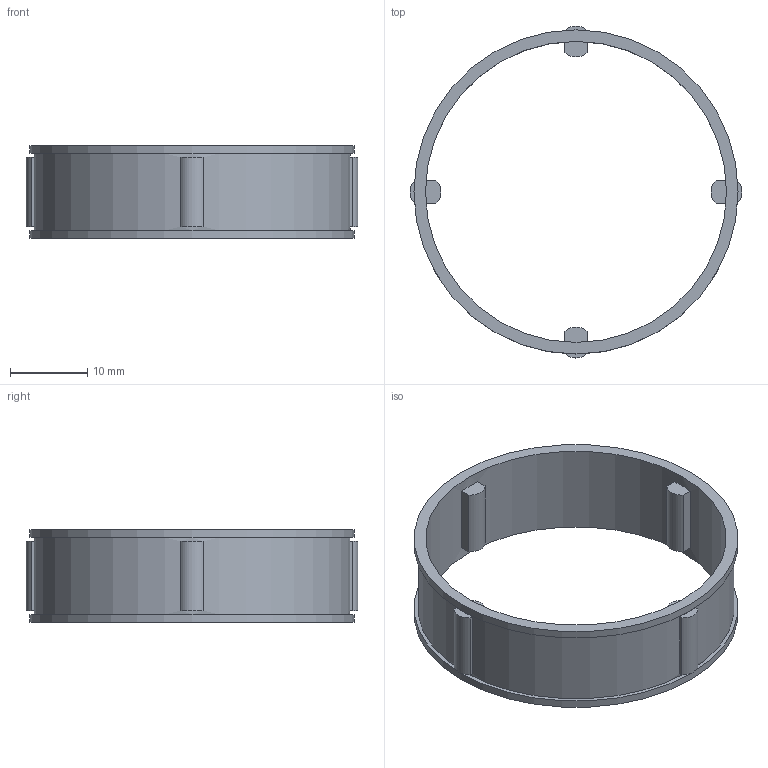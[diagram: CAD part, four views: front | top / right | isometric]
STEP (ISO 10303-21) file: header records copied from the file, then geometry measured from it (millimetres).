
FILE_DESCRIPTION(/* description */ (''),/* implementation_level */ '2;1');
FILE_NAME(/* name */ '300469 FE 443 Z.stp',/* time_stamp */ '2016-11-03T10:25:17+01:00',/* author */ (''),/* organization */ (''),/* preprocessor_version */ 'ST-DEVELOPER v15',/* originating_system */ 'SIEMENS PLM Software NX 8.5',/* authorisation */ '');
FILE_SCHEMA (('CONFIG_CONTROL_DESIGN'));
Length unit declared in the file: millimetre
Products named in the file (1): ATE0000080_01
Bounding box: 43 x 43 x 12 mm (x, y, z)
Volume: 1913.9 mm3; surface area: 3744.4 mm2
Topology: 1 solids, 1 shells, 48 faces, 114 edges, 76 vertices
Faces by surface type: plane 36, cylinder 12
Full cylindrical faces by diameter (mm): 39 x1, 41 x1, 42 x2
Entity records: 1420 total; most frequent: DIRECTION 242, CARTESIAN_POINT 225, ORIENTED_EDGE 208, EDGE_CURVE 104, AXIS2_PLACEMENT_3D 89, VERTEX_POINT 72, LINE 64, VECTOR 64
